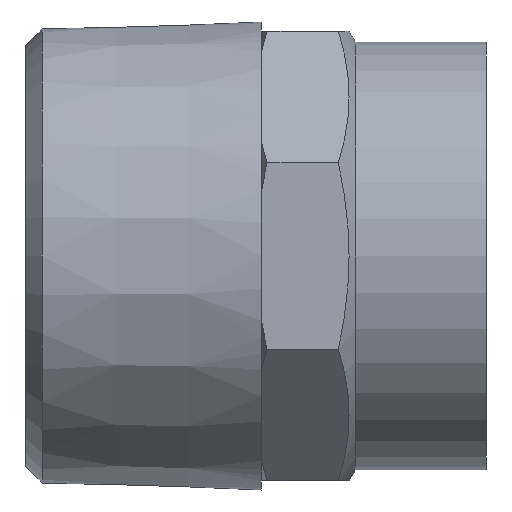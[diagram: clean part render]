
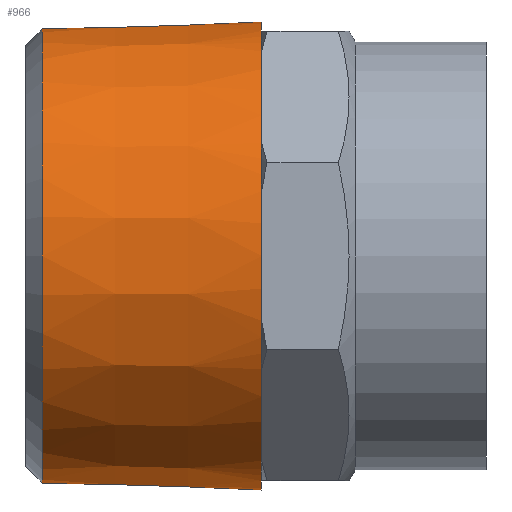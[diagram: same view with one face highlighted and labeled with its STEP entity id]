
A CAD part, front view. The second image highlights one B-rep face of the part: STEP entity #966.
In plain terms, the highlighted conical face has half-angle 1.79 degrees and reference radius 20.996 mm.
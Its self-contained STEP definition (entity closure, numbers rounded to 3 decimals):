
#75=CARTESIAN_POINT('',(21.5,18.667,-10.324));
#76=VERTEX_POINT('',#75);
#121=CARTESIAN_POINT('',(21.5,10.324,-18.667));
#122=VERTEX_POINT('',#121);
#150=CARTESIAN_POINT('',(21.5,5.899,-20.5));
#151=VERTEX_POINT('',#150);
#189=CARTESIAN_POINT('',(21.5,-5.899,-20.5));
#190=VERTEX_POINT('',#189);
#218=CARTESIAN_POINT('',(21.5,-10.324,-18.667));
#219=VERTEX_POINT('',#218);
#257=CARTESIAN_POINT('',(21.5,-18.667,-10.324));
#258=VERTEX_POINT('',#257);
#286=CARTESIAN_POINT('',(21.5,-20.5,-5.899));
#287=VERTEX_POINT('',#286);
#325=CARTESIAN_POINT('',(21.5,-20.5,5.899));
#326=VERTEX_POINT('',#325);
#354=CARTESIAN_POINT('',(21.5,0.0,0.0));
#355=DIRECTION('',(1.0,0.0,0.0));
#356=DIRECTION('',(0.0,1.0,0.0));
#357=AXIS2_PLACEMENT_3D('',#354,#355,#356);
#358=CIRCLE('',#357,21.332);
#359=EDGE_CURVE('',#190,#151,#358,.T.);
#370=CARTESIAN_POINT('',(21.5,0.0,0.0));
#371=DIRECTION('',(1.0,0.0,0.0));
#372=DIRECTION('',(0.0,1.0,0.0));
#373=AXIS2_PLACEMENT_3D('',#370,#371,#372);
#374=CIRCLE('',#373,21.332);
#375=EDGE_CURVE('',#258,#219,#374,.T.);
#386=CARTESIAN_POINT('',(21.5,0.0,0.0));
#387=DIRECTION('',(1.0,0.0,0.0));
#388=DIRECTION('',(0.0,1.0,0.0));
#389=AXIS2_PLACEMENT_3D('',#386,#387,#388);
#390=CIRCLE('',#389,21.332);
#391=EDGE_CURVE('',#326,#287,#390,.T.);
#402=CARTESIAN_POINT('',(21.5,-10.324,18.667));
#403=VERTEX_POINT('',#402);
#404=CARTESIAN_POINT('',(21.5,-18.667,10.324));
#405=VERTEX_POINT('',#404);
#406=CARTESIAN_POINT('',(21.5,0.0,0.0));
#407=DIRECTION('',(1.0,0.0,0.0));
#408=DIRECTION('',(0.0,1.0,0.0));
#409=AXIS2_PLACEMENT_3D('',#406,#407,#408);
#410=CIRCLE('',#409,21.332);
#411=EDGE_CURVE('',#403,#405,#410,.T.);
#427=CARTESIAN_POINT('',(21.5,18.667,10.324));
#428=VERTEX_POINT('',#427);
#429=CARTESIAN_POINT('',(21.5,10.324,18.667));
#430=VERTEX_POINT('',#429);
#431=CARTESIAN_POINT('',(21.5,0.0,0.0));
#432=DIRECTION('',(1.0,0.0,0.0));
#433=DIRECTION('',(0.0,1.0,0.0));
#434=AXIS2_PLACEMENT_3D('',#431,#432,#433);
#435=CIRCLE('',#434,21.332);
#436=EDGE_CURVE('',#428,#430,#435,.T.);
#452=CARTESIAN_POINT('',(21.5,20.5,-5.899));
#453=VERTEX_POINT('',#452);
#454=CARTESIAN_POINT('',(21.5,20.5,5.899));
#455=VERTEX_POINT('',#454);
#456=CARTESIAN_POINT('',(21.5,0.0,0.0));
#457=DIRECTION('',(1.0,0.0,0.0));
#458=DIRECTION('',(0.0,1.0,0.0));
#459=AXIS2_PLACEMENT_3D('',#456,#457,#458);
#460=CIRCLE('',#459,21.332);
#461=EDGE_CURVE('',#453,#455,#460,.T.);
#477=CARTESIAN_POINT('',(21.5,0.0,0.0));
#478=DIRECTION('',(1.0,0.0,0.0));
#479=DIRECTION('',(0.0,1.0,0.0));
#480=AXIS2_PLACEMENT_3D('',#477,#478,#479);
#481=CIRCLE('',#480,21.332);
#482=EDGE_CURVE('',#122,#76,#481,.T.);
#671=CARTESIAN_POINT('',(21.5,-5.899,20.5));
#672=VERTEX_POINT('',#671);
#686=CARTESIAN_POINT('',(21.5,0.0,0.0));
#687=DIRECTION('',(1.0,0.0,0.0));
#688=DIRECTION('',(0.0,1.0,0.0));
#689=AXIS2_PLACEMENT_3D('',#686,#687,#688);
#690=CIRCLE('',#689,21.332);
#691=EDGE_CURVE('',#672,#403,#690,.T.);
#703=CARTESIAN_POINT('',(21.5,0.0,0.0));
#704=DIRECTION('',(1.0,0.0,0.0));
#705=DIRECTION('',(0.0,1.0,0.0));
#706=AXIS2_PLACEMENT_3D('',#703,#704,#705);
#707=CIRCLE('',#706,21.332);
#708=EDGE_CURVE('',#405,#326,#707,.T.);
#720=CARTESIAN_POINT('',(21.5,0.0,0.0));
#721=DIRECTION('',(1.0,0.0,0.0));
#722=DIRECTION('',(0.0,1.0,0.0));
#723=AXIS2_PLACEMENT_3D('',#720,#721,#722);
#724=CIRCLE('',#723,21.332);
#725=EDGE_CURVE('',#287,#258,#724,.T.);
#736=CARTESIAN_POINT('',(21.5,5.899,20.5));
#737=VERTEX_POINT('',#736);
#738=CARTESIAN_POINT('',(21.5,0.0,0.0));
#739=DIRECTION('',(1.0,0.0,0.0));
#740=DIRECTION('',(0.0,1.0,0.0));
#741=AXIS2_PLACEMENT_3D('',#738,#739,#740);
#742=CIRCLE('',#741,21.332);
#743=EDGE_CURVE('',#430,#737,#742,.T.);
#768=CARTESIAN_POINT('',(21.5,0.0,0.0));
#769=DIRECTION('',(1.0,0.0,0.0));
#770=DIRECTION('',(0.0,1.0,0.0));
#771=AXIS2_PLACEMENT_3D('',#768,#769,#770);
#772=CIRCLE('',#771,21.332);
#773=EDGE_CURVE('',#219,#190,#772,.T.);
#785=CARTESIAN_POINT('',(21.5,0.0,0.0));
#786=DIRECTION('',(1.0,0.0,0.0));
#787=DIRECTION('',(0.0,1.0,0.0));
#788=AXIS2_PLACEMENT_3D('',#785,#786,#787);
#789=CIRCLE('',#788,21.332);
#790=EDGE_CURVE('',#151,#122,#789,.T.);
#801=CARTESIAN_POINT('',(21.5,0.0,0.0));
#802=DIRECTION('',(1.0,0.0,0.0));
#803=DIRECTION('',(0.0,1.0,0.0));
#804=AXIS2_PLACEMENT_3D('',#801,#802,#803);
#805=CIRCLE('',#804,21.332);
#806=EDGE_CURVE('',#455,#428,#805,.T.);
#848=CARTESIAN_POINT('',(21.5,0.0,0.0));
#849=DIRECTION('',(1.0,0.0,0.0));
#850=DIRECTION('',(0.0,1.0,0.0));
#851=AXIS2_PLACEMENT_3D('',#848,#849,#850);
#852=CIRCLE('',#851,21.332);
#853=EDGE_CURVE('',#737,#672,#852,.T.);
#902=CARTESIAN_POINT('',(1.499,20.707,0.));
#903=VERTEX_POINT('',#902);
#904=CARTESIAN_POINT('',(1.499,0.0,0.));
#905=DIRECTION('',(-1.0,0.0,0.0));
#906=DIRECTION('',(0.0,-1.0,0.0));
#907=AXIS2_PLACEMENT_3D('',#904,#905,#906);
#908=CIRCLE('',#907,20.707);
#909=EDGE_CURVE('',#903,#903,#908,.T.);
#934=CARTESIAN_POINT('',(10.75,0.0,0.0));
#935=DIRECTION('',(1.0,0.0,0.0));
#936=DIRECTION('',(0.0,1.0,0.0));
#937=AXIS2_PLACEMENT_3D('',#934,#935,#936);
#938=CONICAL_SURFACE('',#937,20.996,1.79);
#939=ORIENTED_EDGE('',*,*,#691,.F.);
#940=ORIENTED_EDGE('',*,*,#853,.F.);
#941=ORIENTED_EDGE('',*,*,#743,.F.);
#942=ORIENTED_EDGE('',*,*,#436,.F.);
#943=ORIENTED_EDGE('',*,*,#806,.F.);
#944=ORIENTED_EDGE('',*,*,#461,.F.);
#945=CARTESIAN_POINT('',(21.5,0.0,0.0));
#946=DIRECTION('',(1.0,0.0,0.0));
#947=DIRECTION('',(0.0,1.0,0.0));
#948=AXIS2_PLACEMENT_3D('',#945,#946,#947);
#949=CIRCLE('',#948,21.332);
#950=EDGE_CURVE('',#76,#453,#949,.T.);
#951=ORIENTED_EDGE('',*,*,#950,.F.);
#952=ORIENTED_EDGE('',*,*,#482,.F.);
#953=ORIENTED_EDGE('',*,*,#790,.F.);
#954=ORIENTED_EDGE('',*,*,#359,.F.);
#955=ORIENTED_EDGE('',*,*,#773,.F.);
#956=ORIENTED_EDGE('',*,*,#375,.F.);
#957=ORIENTED_EDGE('',*,*,#725,.F.);
#958=ORIENTED_EDGE('',*,*,#391,.F.);
#959=ORIENTED_EDGE('',*,*,#708,.F.);
#960=ORIENTED_EDGE('',*,*,#411,.F.);
#961=EDGE_LOOP('',(#939,#940,#941,#942,#943,#944,#951,#952,#953,#954,#955,#956,#957,#958,#959,#960));
#962=FACE_OUTER_BOUND('',#961,.T.);
#963=ORIENTED_EDGE('',*,*,#909,.F.);
#964=EDGE_LOOP('',(#963));
#965=FACE_BOUND('',#964,.T.);
#966=ADVANCED_FACE('',(#962,#965),#938,.T.);
